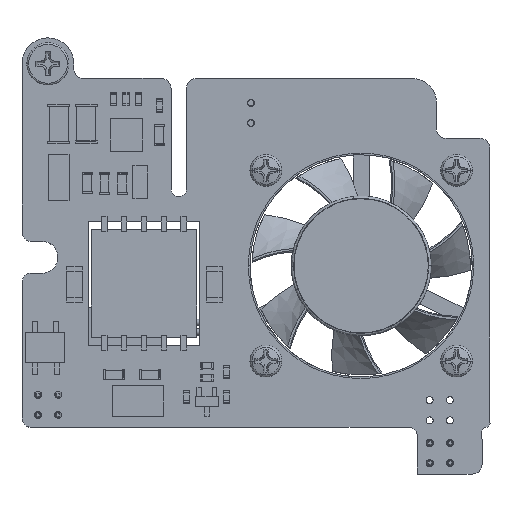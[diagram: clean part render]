
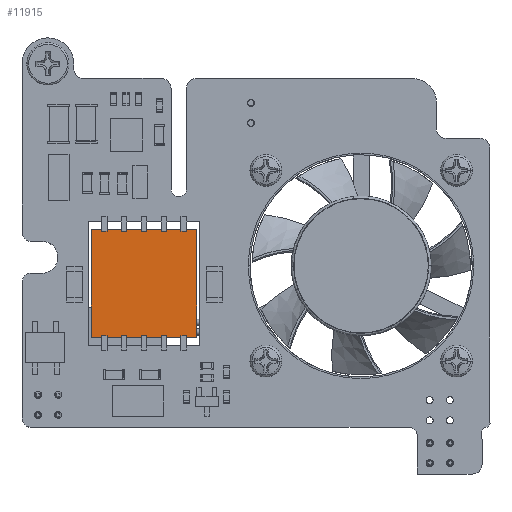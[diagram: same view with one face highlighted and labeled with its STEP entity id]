
A CAD part, top view. The second image highlights one B-rep face of the part: STEP entity #11915.
In plain terms, the highlighted planar face has unit normal (0, 0, 1).
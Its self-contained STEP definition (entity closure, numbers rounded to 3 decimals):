
#11785=DIRECTION('',(0.,1.,0.));
#11786=VECTOR('',#11785,13.495);
#11787=CARTESIAN_POINT('',(-6.65,-6.747,12.85));
#11788=LINE('',#11787,#11786);
#11792=DIRECTION('',(1.,0.,0.));
#11793=VECTOR('',#11792,13.3);
#11794=CARTESIAN_POINT('',(-6.65,6.747,12.85));
#11795=LINE('',#11794,#11793);
#11799=DIRECTION('',(0.,-1.,0.));
#11800=VECTOR('',#11799,13.495);
#11801=CARTESIAN_POINT('',(6.65,6.747,12.85));
#11802=LINE('',#11801,#11800);
#11806=DIRECTION('',(-1.,0.,0.));
#11807=VECTOR('',#11806,13.3);
#11808=CARTESIAN_POINT('',(6.65,-6.747,12.85));
#11809=LINE('',#11808,#11807);
#11841=CARTESIAN_POINT('',(-6.65,-6.747,12.85));
#11842=CARTESIAN_POINT('',(-6.65,6.747,12.85));
#11843=VERTEX_POINT('',#11841);
#11844=VERTEX_POINT('',#11842);
#11845=CARTESIAN_POINT('',(6.65,6.747,12.85));
#11846=VERTEX_POINT('',#11845);
#11847=CARTESIAN_POINT('',(6.65,-6.747,12.85));
#11848=VERTEX_POINT('',#11847);
#11902=CARTESIAN_POINT('',(-6.65,-6.747,12.85));
#11903=DIRECTION('',(0.,0.,1.));
#11904=DIRECTION('',(1.,0.,0.));
#11905=AXIS2_PLACEMENT_3D('',#11902,#11903,#11904);
#11906=PLANE('',#11905);
#11907=ORIENTED_EDGE('',*,*,#11866,.T.);
#11909=ORIENTED_EDGE('',*,*,#11908,.T.);
#11911=ORIENTED_EDGE('',*,*,#11910,.T.);
#11912=ORIENTED_EDGE('',*,*,#11895,.T.);
#11913=EDGE_LOOP('',(#11907,#11909,#11911,#11912));
#11914=FACE_OUTER_BOUND('',#11913,.F.);
#11915=ADVANCED_FACE('',(#11914),#11906,.T.);
#11866=EDGE_CURVE('',#11843,#11844,#11788,.T.);
#11895=EDGE_CURVE('',#11848,#11843,#11809,.T.);
#11908=EDGE_CURVE('',#11844,#11846,#11795,.T.);
#11910=EDGE_CURVE('',#11846,#11848,#11802,.T.);
